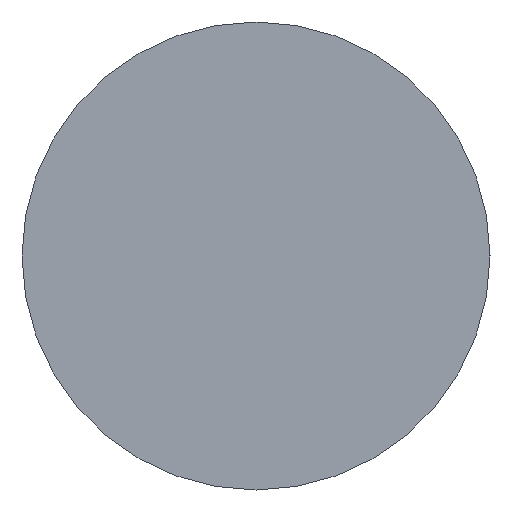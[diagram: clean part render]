
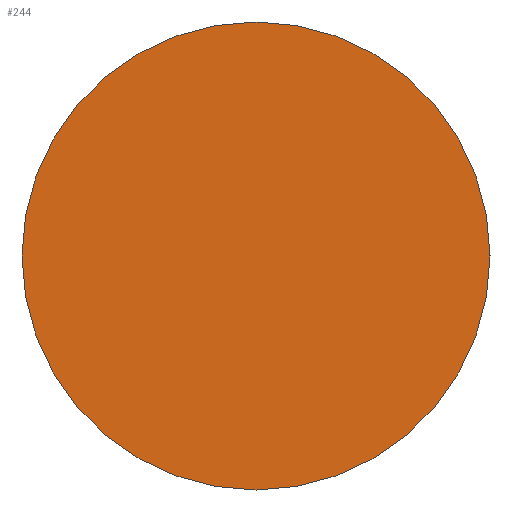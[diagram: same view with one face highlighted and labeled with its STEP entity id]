
A CAD part, left-side view. The second image highlights one B-rep face of the part: STEP entity #244.
In plain terms, the highlighted planar face has unit normal (-1, 0, 0).
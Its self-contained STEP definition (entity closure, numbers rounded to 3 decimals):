
#6 = VERTEX_POINT ( 'NONE', #80 ) ;
#9 = DIRECTION ( 'NONE',  ( 0., -1., 0. ) ) ;
#14 = DIRECTION ( 'NONE',  ( 0., 1., 0. ) ) ;
#15 = CIRCLE ( 'NONE', #77, 11. ) ;
#25 = DIRECTION ( 'NONE',  ( 1., 0., 0. ) ) ;
#53 = EDGE_CURVE ( 'NONE', #266, #6, #15, .T. ) ;
#55 = CIRCLE ( 'NONE', #214, 11. ) ;
#75 = EDGE_CURVE ( 'NONE', #6, #266, #55, .T. ) ;
#77 = AXIS2_PLACEMENT_3D ( 'NONE', #88, #25, #120 ) ;
#80 = CARTESIAN_POINT ( 'NONE',  ( 0., 11., 0. ) ) ;
#88 = CARTESIAN_POINT ( 'NONE',  ( 0., 0., 0. ) ) ;
#90 = ORIENTED_EDGE ( 'NONE', *, *, #75, .F. ) ;
#96 = ORIENTED_EDGE ( 'NONE', *, *, #53, .F. ) ;
#107 = EDGE_LOOP ( 'NONE', ( #90, #96 ) ) ;
#120 = DIRECTION ( 'NONE',  ( 0., 1., 0. ) ) ;
#131 = CARTESIAN_POINT ( 'NONE',  ( 0., 0., 0. ) ) ;
#142 = DIRECTION ( 'NONE',  ( 1., 0., 0. ) ) ;
#152 = FACE_OUTER_BOUND ( 'NONE', #107, .T. ) ;
#203 = CARTESIAN_POINT ( 'NONE',  ( 0., 0., 0. ) ) ;
#205 = AXIS2_PLACEMENT_3D ( 'NONE', #131, #221, #9 ) ;
#214 = AXIS2_PLACEMENT_3D ( 'NONE', #203, #142, #14 ) ;
#221 = DIRECTION ( 'NONE',  ( -1., 0., 0. ) ) ;
#229 = CARTESIAN_POINT ( 'NONE',  ( 0., -11., 0. ) ) ;
#244 = ADVANCED_FACE ( 'NONE', ( #152 ), #269, .T. ) ;
#266 = VERTEX_POINT ( 'NONE', #229 ) ;
#269 = PLANE ( 'NONE',  #205 ) ;
